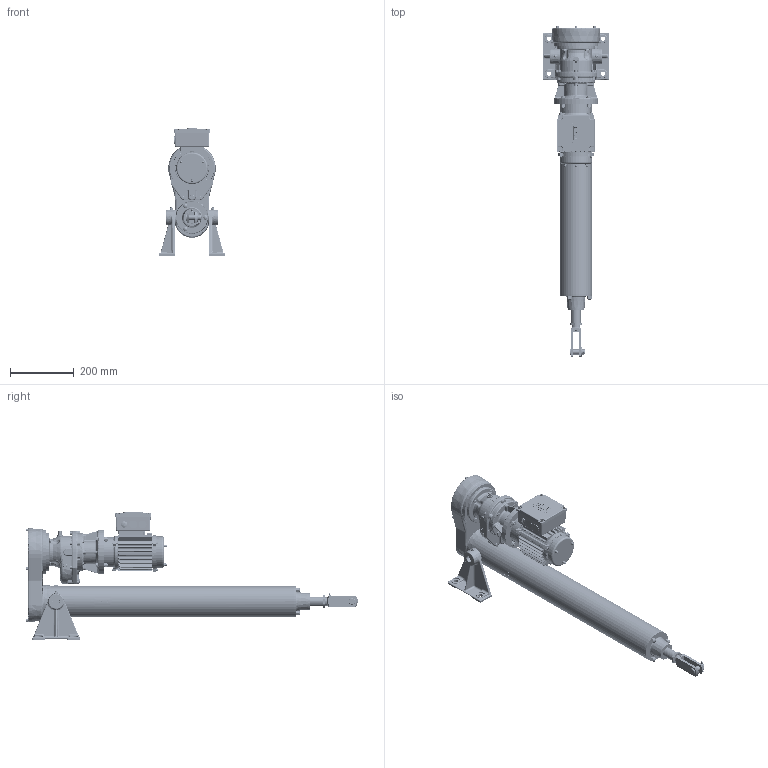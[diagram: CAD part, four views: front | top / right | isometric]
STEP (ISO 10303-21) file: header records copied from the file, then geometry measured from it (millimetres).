
FILE_DESCRIPTION( ( '153-599-4' ), '1' );
FILE_NAME( 'C:/daten/bearbeitung katalogbilder/RBs rendern/austausch pomplun/mit identnr/T1N4-0600-160-233-0.stp', 'Unknown', ( 'Christoph Hahmann' ), ( 'RACO-ELEKTRO-MASCHINEN GmbH' ), 'PSStep 17.0.49', 'Solid Edge ST 7', ' ' );
FILE_SCHEMA( ( 'AUTOMOTIVE_DESIGN { 1 0 10303 214 1 1 1 1 }' ) );
Length unit declared in the file: millimetre
Products named in the file (12): Assem1; 03.01-04 kpl; 02.14-04-0600; 02.01-04 kpl; 01.15-04-0600; 01.01-04 kpl Gabelkopf; 12.01-04; 12.02-04; 04.40-140-105-101-6; 105-218-7 kpl; 03.65-04-105-052-4-2 Füße; BGR 4
Assembly tree (11 placements, depth 2):
  Assem1
    03.01-04 kpl
    02.14-04-0600
    02.01-04 kpl
    01.15-04-0600
    01.01-04 kpl Gabelkopf
    12.01-04
    12.02-04
    04.40-140-105-101-6
    105-218-7 kpl
    03.65-04-105-052-4-2 Füße
    BGR 4
Bounding box: 209 x 1043.58 x 400.1 mm (x, y, z)
Surface area: 1349684.2 mm2 (no closed solid volume)
Topology: 0 solids, 7313 shells, 7313 faces, 37210 edges, 36264 vertices
Faces by surface type: plane 3387, cylinder 1838, bspline 737, torus 656, cone 395, sphere 154, extrusion 145, revolution 1
Full cylindrical faces by diameter (mm): 1.6 x2, 2 x1, 2.459 x12, 3 x8, 3.141 x6, 3.242 x22, 3.5 x1, 4 x15, 4.02 x5, 4.134 x18, 4.77 x4, 4.773 x7, 4.8 x9, 4.917 x2, 5 x39, 5.1 x1, 5.3 x5, 5.4 x5, 5.5 x8, 5.7 x3, 6 x28, 6.4 x4, 6.47 x4, 6.6 x11, 6.647 x3, 6.917 x2, 7 x14, 7.33 x1, 7.5 x3, 8 x17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
Entity records: 515647 total; most frequent: CARTESIAN_POINT 187463, DIRECTION 57908, VERTEX_POINT 35866, ORIENTED_EDGE 35824, EDGE_CURVE 35824, AXIS2_PLACEMENT_3D 20645, VECTOR 16617, LINE 16472
